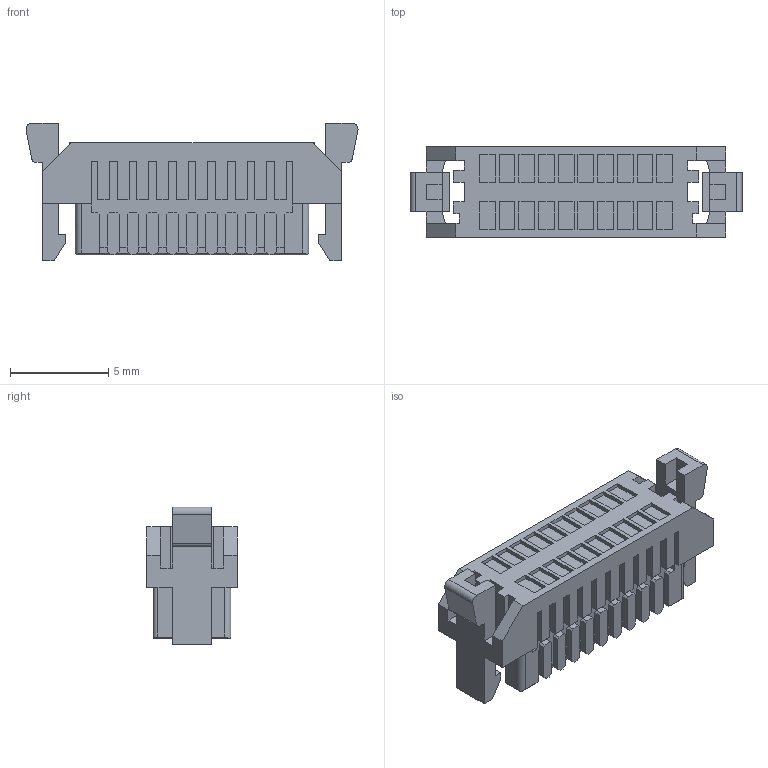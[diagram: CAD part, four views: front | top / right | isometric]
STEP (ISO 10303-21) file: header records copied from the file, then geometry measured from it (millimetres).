
FILE_DESCRIPTION((''),'2;1');
FILE_NAME('51409-020HXXX-XXX','2019-01-18T',('d37380'),(''),'CREO PARAMETRIC BY PTC INC, 2014500','CREO PARAMETRIC BY PTC INC, 2014500','');
FILE_SCHEMA(('CONFIG_CONTROL_DESIGN'));
Length unit declared in the file: millimetre
Products named in the file (1): 51409-020HXXX-XXX
Bounding box: 16.87 x 4.6 x 7 mm (x, y, z)
Volume: 236.7 mm3; surface area: 695.3 mm2
Topology: 1 solids, 1 shells, 880 faces, 2554 edges, 1672 vertices
Faces by surface type: plane 872, cylinder 8
Entity records: 28403 total; most frequent: CARTESIAN_POINT 5125, ORIENTED_EDGE 5108, DIRECTION 4318, EDGE_CURVE 2554, VECTOR 2534, LINE 2534, VERTEX_POINT 1672, EDGE_LOOP 920
